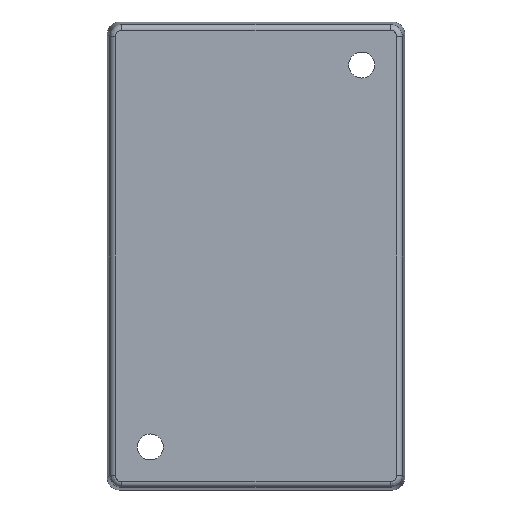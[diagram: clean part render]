
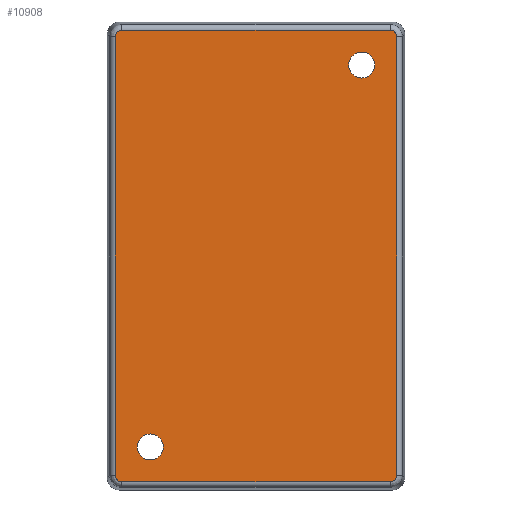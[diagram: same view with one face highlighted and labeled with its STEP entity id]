
A CAD part, front view. The second image highlights one B-rep face of the part: STEP entity #10908.
In plain terms, the highlighted planar face has unit normal (0, -1, 0).
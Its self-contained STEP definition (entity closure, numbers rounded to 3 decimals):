
#64 = CARTESIAN_POINT ( 'NONE',  ( -16.586, -12.7, -27.936 ) ) ;
#77 = VERTEX_POINT ( 'NONE', #8665 ) ;
#164 = CARTESIAN_POINT ( 'NONE',  ( 17.386, -12.7, -27.136 ) ) ;
#191 = LINE ( 'NONE', #2309, #7460 ) ;
#232 = PLANE ( 'NONE',  #2578 ) ;
#816 = CARTESIAN_POINT ( 'NONE',  ( 17.386, -12.7, 27.136 ) ) ;
#1127 = EDGE_CURVE ( 'NONE', #3519, #3180, #191, .T. ) ;
#1219 = FACE_BOUND ( 'NONE', #3517, .T. ) ;
#1251 = CARTESIAN_POINT ( 'NONE',  ( 13.08, -12.7, 25.22 ) ) ;
#1481 = LINE ( 'NONE', #6972, #4432 ) ;
#1614 = CIRCLE ( 'NONE', #11236, 1.6 ) ;
#1944 = DIRECTION ( 'NONE',  ( 1., 0., 0. ) ) ;
#2309 = CARTESIAN_POINT ( 'NONE',  ( -17.386, -12.7, 0. ) ) ;
#2578 = AXIS2_PLACEMENT_3D ( 'NONE', #11158, #5203, #12120 ) ;
#2593 = CARTESIAN_POINT ( 'NONE',  ( -16.586, -12.7, 27.936 ) ) ;
#2823 = EDGE_CURVE ( 'NONE', #3519, #9918, #11571, .T. ) ;
#3079 = EDGE_CURVE ( 'NONE', #5872, #12689, #1481, .T. ) ;
#3180 = VERTEX_POINT ( 'NONE', #7103 ) ;
#3203 = VERTEX_POINT ( 'NONE', #11092 ) ;
#3228 = FACE_BOUND ( 'NONE', #5928, .T. ) ;
#3364 = CARTESIAN_POINT ( 'NONE',  ( 0., -12.7, 27.936 ) ) ;
#3399 = VERTEX_POINT ( 'NONE', #12221 ) ;
#3517 = EDGE_LOOP ( 'NONE', ( #7110 ) ) ;
#3519 = VERTEX_POINT ( 'NONE', #12259 ) ;
#3916 = CARTESIAN_POINT ( 'NONE',  ( 0., -12.7, -27.936 ) ) ;
#3956 =( BOUNDED_CURVE ( )  B_SPLINE_CURVE ( 3, ( #10648, #7703, #11684, #5750 ),
 .UNSPECIFIED., .F., .T. ) 
 B_SPLINE_CURVE_WITH_KNOTS ( ( 4, 4 ),
 ( 5.498, 7.068 ),
 .UNSPECIFIED. ) 
 CURVE ( )  GEOMETRIC_REPRESENTATION_ITEM ( )  RATIONAL_B_SPLINE_CURVE ( ( 1., 0.805, 0.805, 1. ) ) 
 REPRESENTATION_ITEM ( '' )  );
#4056 = CARTESIAN_POINT ( 'NONE',  ( -17.386, -12.7, -27.136 ) ) ;
#4208 = CARTESIAN_POINT ( 'NONE',  ( 16.586, -12.7, 27.936 ) ) ;
#4235 = ORIENTED_EDGE ( 'NONE', *, *, #5053, .T. ) ;
#4386 = VERTEX_POINT ( 'NONE', #1251 ) ;
#4432 = VECTOR ( 'NONE', #7969, 1000. ) ;
#4575 = CARTESIAN_POINT ( 'NONE',  ( -16.586, -12.7, 27.936 ) ) ;
#5053 = EDGE_CURVE ( 'NONE', #3203, #3399, #10745, .T. ) ;
#5093 = FACE_OUTER_BOUND ( 'NONE', #5695, .T. ) ;
#5203 = DIRECTION ( 'NONE',  ( 0., -1., 0. ) ) ;
#5526 = CARTESIAN_POINT ( 'NONE',  ( 13.08, -12.7, 23.62 ) ) ;
#5528 = CARTESIAN_POINT ( 'NONE',  ( -17.386, -12.7, 27.604 ) ) ;
#5578 = DIRECTION ( 'NONE',  ( 0., 1., 0. ) ) ;
#5582 = EDGE_CURVE ( 'NONE', #11499, #11499, #5657, .T. ) ;
#5657 = CIRCLE ( 'NONE', #8966, 1.6 ) ;
#5695 = EDGE_LOOP ( 'NONE', ( #12188, #12725, #9400, #4235, #7361, #8256, #8893, #12681 ) ) ;
#5750 = CARTESIAN_POINT ( 'NONE',  ( 16.586, -12.7, -27.936 ) ) ;
#5872 = VERTEX_POINT ( 'NONE', #164 ) ;
#5928 = EDGE_LOOP ( 'NONE', ( #7621 ) ) ;
#6001 = EDGE_CURVE ( 'NONE', #77, #9918, #9629, .T. ) ;
#6193 = CARTESIAN_POINT ( 'NONE',  ( 17.386, -12.7, 27.136 ) ) ;
#6527 = DIRECTION ( 'NONE',  ( 0., 0., 1. ) ) ;
#6972 = CARTESIAN_POINT ( 'NONE',  ( 17.386, -12.7, 0. ) ) ;
#7103 = CARTESIAN_POINT ( 'NONE',  ( -17.386, -12.7, -27.136 ) ) ;
#7110 = ORIENTED_EDGE ( 'NONE', *, *, #5582, .T. ) ;
#7216 =( BOUNDED_CURVE ( )  B_SPLINE_CURVE ( 3, ( #4208, #10143, #12119, #6193 ),
 .UNSPECIFIED., .F., .T. ) 
 B_SPLINE_CURVE_WITH_KNOTS ( ( 4, 4 ),
 ( 5.498, 7.068 ),
 .UNSPECIFIED. ) 
 CURVE ( )  GEOMETRIC_REPRESENTATION_ITEM ( )  RATIONAL_B_SPLINE_CURVE ( ( 1., 0.805, 0.805, 1. ) ) 
 REPRESENTATION_ITEM ( '' )  );
#7361 = ORIENTED_EDGE ( 'NONE', *, *, #10029, .F. ) ;
#7460 = VECTOR ( 'NONE', #10091, 1000. ) ;
#7621 = ORIENTED_EDGE ( 'NONE', *, *, #12578, .T. ) ;
#7703 = CARTESIAN_POINT ( 'NONE',  ( 17.386, -12.7, -27.604 ) ) ;
#7969 = DIRECTION ( 'NONE',  ( 0., 0., 1. ) ) ;
#8256 = ORIENTED_EDGE ( 'NONE', *, *, #3079, .T. ) ;
#8305 = DIRECTION ( 'NONE',  ( -1., 0., 0. ) ) ;
#8664 = EDGE_CURVE ( 'NONE', #77, #12689, #7216, .T. ) ;
#8665 = CARTESIAN_POINT ( 'NONE',  ( 16.586, -12.7, 27.936 ) ) ;
#8893 = ORIENTED_EDGE ( 'NONE', *, *, #8664, .F. ) ;
#8966 = AXIS2_PLACEMENT_3D ( 'NONE', #11504, #5578, #12493 ) ;
#9281 =( BOUNDED_CURVE ( )  B_SPLINE_CURVE ( 3, ( #64, #10951, #9989, #4056 ),
 .UNSPECIFIED., .F., .T. ) 
 B_SPLINE_CURVE_WITH_KNOTS ( ( 4, 4 ),
 ( 5.498, 7.068 ),
 .UNSPECIFIED. ) 
 CURVE ( )  GEOMETRIC_REPRESENTATION_ITEM ( )  RATIONAL_B_SPLINE_CURVE ( ( 1., 0.805, 0.805, 1. ) ) 
 REPRESENTATION_ITEM ( '' )  );
#9400 = ORIENTED_EDGE ( 'NONE', *, *, #10279, .F. ) ;
#9506 = CARTESIAN_POINT ( 'NONE',  ( -17.054, -12.7, 27.936 ) ) ;
#9629 = LINE ( 'NONE', #3364, #10247 ) ;
#9918 = VERTEX_POINT ( 'NONE', #2593 ) ;
#9989 = CARTESIAN_POINT ( 'NONE',  ( -17.386, -12.7, -27.604 ) ) ;
#10029 = EDGE_CURVE ( 'NONE', #5872, #3399, #3956, .T. ) ;
#10091 = DIRECTION ( 'NONE',  ( 0., 0., -1. ) ) ;
#10143 = CARTESIAN_POINT ( 'NONE',  ( 17.054, -12.7, 27.936 ) ) ;
#10247 = VECTOR ( 'NONE', #8305, 1000. ) ;
#10279 = EDGE_CURVE ( 'NONE', #3203, #3180, #9281, .T. ) ;
#10506 = CARTESIAN_POINT ( 'NONE',  ( -17.386, -12.7, 27.136 ) ) ;
#10648 = CARTESIAN_POINT ( 'NONE',  ( 17.386, -12.7, -27.136 ) ) ;
#10745 = LINE ( 'NONE', #3916, #10904 ) ;
#10904 = VECTOR ( 'NONE', #1944, 1000. ) ;
#10908 = ADVANCED_FACE ( 'NONE', ( #1219, #3228, #5093 ), #232, .T. ) ;
#10951 = CARTESIAN_POINT ( 'NONE',  ( -17.054, -12.7, -27.936 ) ) ;
#11042 = CARTESIAN_POINT ( 'NONE',  ( -13.08, -12.7, -22.02 ) ) ;
#11092 = CARTESIAN_POINT ( 'NONE',  ( -16.586, -12.7, -27.936 ) ) ;
#11158 = CARTESIAN_POINT ( 'NONE',  ( 0., -12.7, 0. ) ) ;
#11236 = AXIS2_PLACEMENT_3D ( 'NONE', #5526, #12444, #6527 ) ;
#11499 = VERTEX_POINT ( 'NONE', #11042 ) ;
#11504 = CARTESIAN_POINT ( 'NONE',  ( -13.08, -12.7, -23.62 ) ) ;
#11571 =( BOUNDED_CURVE ( )  B_SPLINE_CURVE ( 3, ( #10506, #5528, #9506, #4575 ),
 .UNSPECIFIED., .F., .F. ) 
 B_SPLINE_CURVE_WITH_KNOTS ( ( 4, 4 ),
 ( 5.498, 7.068 ),
 .UNSPECIFIED. ) 
 CURVE ( )  GEOMETRIC_REPRESENTATION_ITEM ( )  RATIONAL_B_SPLINE_CURVE ( ( 1., 0.805, 0.805, 1. ) ) 
 REPRESENTATION_ITEM ( '' )  );
#11684 = CARTESIAN_POINT ( 'NONE',  ( 17.054, -12.7, -27.936 ) ) ;
#12119 = CARTESIAN_POINT ( 'NONE',  ( 17.386, -12.7, 27.604 ) ) ;
#12120 = DIRECTION ( 'NONE',  ( 0., 0., -1. ) ) ;
#12188 = ORIENTED_EDGE ( 'NONE', *, *, #2823, .F. ) ;
#12221 = CARTESIAN_POINT ( 'NONE',  ( 16.586, -12.7, -27.936 ) ) ;
#12259 = CARTESIAN_POINT ( 'NONE',  ( -17.386, -12.7, 27.136 ) ) ;
#12444 = DIRECTION ( 'NONE',  ( 0., 1., 0. ) ) ;
#12493 = DIRECTION ( 'NONE',  ( 0., 0., 1. ) ) ;
#12578 = EDGE_CURVE ( 'NONE', #4386, #4386, #1614, .T. ) ;
#12681 = ORIENTED_EDGE ( 'NONE', *, *, #6001, .T. ) ;
#12689 = VERTEX_POINT ( 'NONE', #816 ) ;
#12725 = ORIENTED_EDGE ( 'NONE', *, *, #1127, .T. ) ;
